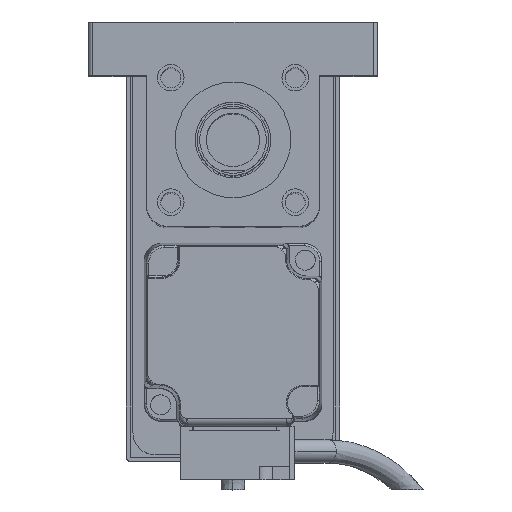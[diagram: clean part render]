
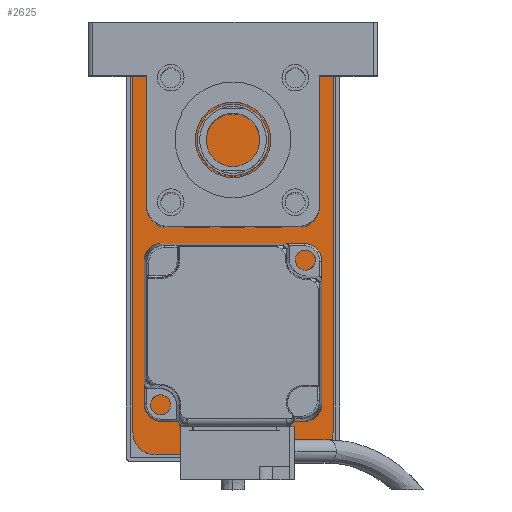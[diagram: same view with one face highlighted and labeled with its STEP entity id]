
A CAD part, top view. The second image highlights one B-rep face of the part: STEP entity #2625.
In plain terms, the highlighted planar face has unit normal (0, 0, 1).
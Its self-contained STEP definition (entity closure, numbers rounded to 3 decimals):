
#119 = VECTOR ( 'NONE', #19989, 1000. ) ;
#201 = DIRECTION ( 'NONE',  ( 0., -1., 0. ) ) ;
#499 = CIRCLE ( 'NONE', #10911, 5. ) ;
#511 = CIRCLE ( 'NONE', #10479, 5. ) ;
#629 = AXIS2_PLACEMENT_3D ( 'NONE', #1162, #16975, #20941 ) ;
#846 = EDGE_CURVE ( 'NONE', #20492, #4311, #499, .T. ) ;
#1162 = CARTESIAN_POINT ( 'NONE',  ( 0., 0., 10. ) ) ;
#1265 = VERTEX_POINT ( 'NONE', #20743 ) ;
#2167 = CARTESIAN_POINT ( 'NONE',  ( -22.5, -45., 10. ) ) ;
#2462 = CARTESIAN_POINT ( 'NONE',  ( -22.5, 40., 10. ) ) ;
#2625 = ADVANCED_FACE ( 'NONE', ( #9854 ), #13019, .T. ) ;
#4311 = VERTEX_POINT ( 'NONE', #16237 ) ;
#5846 = CARTESIAN_POINT ( 'NONE',  ( 17.5, 45., 10. ) ) ;
#6053 = DIRECTION ( 'NONE',  ( 0., 0., 1. ) ) ;
#6129 = CARTESIAN_POINT ( 'NONE',  ( -17.5, 40., 10. ) ) ;
#6534 = CARTESIAN_POINT ( 'NONE',  ( -17.5, -40., 10. ) ) ;
#6692 = VECTOR ( 'NONE', #7389, 1000. ) ;
#7028 = CARTESIAN_POINT ( 'NONE',  ( 17.5, -40., 10. ) ) ;
#7389 = DIRECTION ( 'NONE',  ( 0., 1., 0. ) ) ;
#7646 = EDGE_CURVE ( 'NONE', #25474, #17554, #15227, .T. ) ;
#7709 = ORIENTED_EDGE ( 'NONE', *, *, #7646, .T. ) ;
#7855 = VERTEX_POINT ( 'NONE', #15096 ) ;
#8202 = CARTESIAN_POINT ( 'NONE',  ( 22.5, 45., 10. ) ) ;
#8701 = EDGE_CURVE ( 'NONE', #12218, #7855, #22266, .T. ) ;
#9299 = CARTESIAN_POINT ( 'NONE',  ( 22.5, -45., 10. ) ) ;
#9771 = ORIENTED_EDGE ( 'NONE', *, *, #8701, .T. ) ;
#9854 = FACE_OUTER_BOUND ( 'NONE', #22938, .T. ) ;
#10244 = CIRCLE ( 'NONE', #11149, 5. ) ;
#10479 = AXIS2_PLACEMENT_3D ( 'NONE', #6129, #6053, #24047 ) ;
#10636 = DIRECTION ( 'NONE',  ( 1., 0., 0. ) ) ;
#10911 = AXIS2_PLACEMENT_3D ( 'NONE', #7028, #17048, #15010 ) ;
#11004 = LINE ( 'NONE', #2167, #22106 ) ;
#11149 = AXIS2_PLACEMENT_3D ( 'NONE', #16266, #13767, #21689 ) ;
#11620 = CARTESIAN_POINT ( 'NONE',  ( -17.5, 45., 10. ) ) ;
#11788 = EDGE_CURVE ( 'NONE', #15158, #12218, #11004, .T. ) ;
#11845 = VECTOR ( 'NONE', #24107, 1000. ) ;
#12218 = VERTEX_POINT ( 'NONE', #16986 ) ;
#13019 = PLANE ( 'NONE',  #629 ) ;
#13767 = DIRECTION ( 'NONE',  ( 0., 0., 1. ) ) ;
#14188 = ORIENTED_EDGE ( 'NONE', *, *, #20427, .T. ) ;
#14406 = EDGE_CURVE ( 'NONE', #7855, #20492, #22985, .T. ) ;
#15010 = DIRECTION ( 'NONE',  ( 1., 0., 0. ) ) ;
#15096 = CARTESIAN_POINT ( 'NONE',  ( -17.5, -45., 10. ) ) ;
#15158 = VERTEX_POINT ( 'NONE', #2462 ) ;
#15227 = LINE ( 'NONE', #8202, #11845 ) ;
#15722 = AXIS2_PLACEMENT_3D ( 'NONE', #6534, #22269, #10636 ) ;
#16237 = CARTESIAN_POINT ( 'NONE',  ( 22.5, -40., 10. ) ) ;
#16266 = CARTESIAN_POINT ( 'NONE',  ( 17.5, 40., 10. ) ) ;
#16975 = DIRECTION ( 'NONE',  ( 0., 0., 1. ) ) ;
#16986 = CARTESIAN_POINT ( 'NONE',  ( -22.5, -40., 10. ) ) ;
#17048 = DIRECTION ( 'NONE',  ( 0., 0., 1. ) ) ;
#17554 = VERTEX_POINT ( 'NONE', #11620 ) ;
#18040 = ORIENTED_EDGE ( 'NONE', *, *, #14406, .T. ) ;
#19636 = EDGE_CURVE ( 'NONE', #4311, #1265, #21860, .T. ) ;
#19989 = DIRECTION ( 'NONE',  ( 1., 0., 0. ) ) ;
#20427 = EDGE_CURVE ( 'NONE', #17554, #15158, #511, .T. ) ;
#20492 = VERTEX_POINT ( 'NONE', #24129 ) ;
#20743 = CARTESIAN_POINT ( 'NONE',  ( 22.5, 40., 10. ) ) ;
#20941 = DIRECTION ( 'NONE',  ( 1., 0., 0. ) ) ;
#21689 = DIRECTION ( 'NONE',  ( 1., 0., 0. ) ) ;
#21860 = LINE ( 'NONE', #9299, #6692 ) ;
#21949 = ORIENTED_EDGE ( 'NONE', *, *, #11788, .T. ) ;
#21973 = CARTESIAN_POINT ( 'NONE',  ( 22.5, -45., 10. ) ) ;
#22106 = VECTOR ( 'NONE', #201, 1000. ) ;
#22266 = CIRCLE ( 'NONE', #15722, 5. ) ;
#22269 = DIRECTION ( 'NONE',  ( 0., 0., 1. ) ) ;
#22300 = ORIENTED_EDGE ( 'NONE', *, *, #23276, .T. ) ;
#22938 = EDGE_LOOP ( 'NONE', ( #24483, #22300, #7709, #14188, #21949, #9771, #18040, #24793 ) ) ;
#22985 = LINE ( 'NONE', #21973, #119 ) ;
#23276 = EDGE_CURVE ( 'NONE', #1265, #25474, #10244, .T. ) ;
#24047 = DIRECTION ( 'NONE',  ( 1., 0., 0. ) ) ;
#24107 = DIRECTION ( 'NONE',  ( -1., 0., 0. ) ) ;
#24129 = CARTESIAN_POINT ( 'NONE',  ( 17.5, -45., 10. ) ) ;
#24483 = ORIENTED_EDGE ( 'NONE', *, *, #19636, .T. ) ;
#24793 = ORIENTED_EDGE ( 'NONE', *, *, #846, .T. ) ;
#25474 = VERTEX_POINT ( 'NONE', #5846 ) ;
